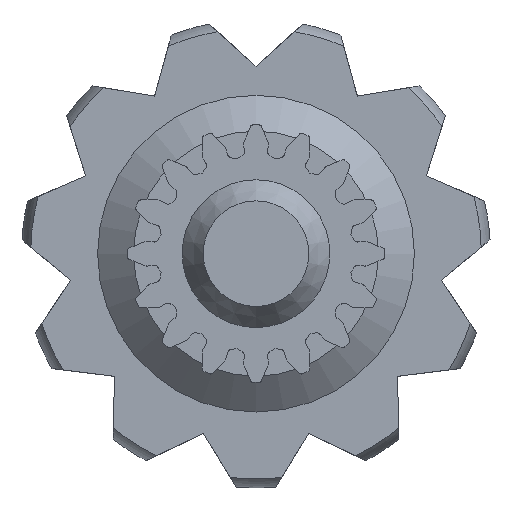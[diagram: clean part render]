
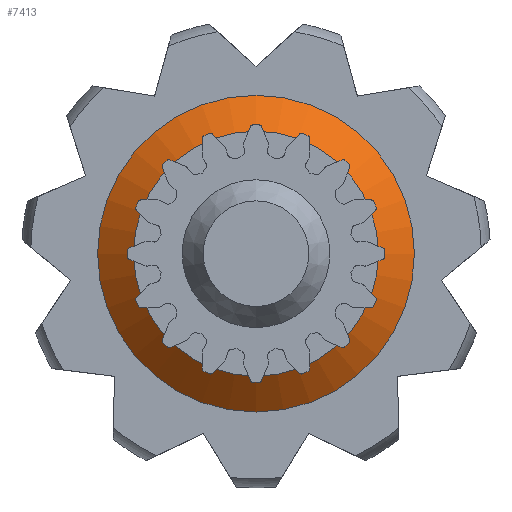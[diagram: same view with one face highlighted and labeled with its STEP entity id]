
A CAD part, left-side view. The second image highlights one B-rep face of the part: STEP entity #7413.
In plain terms, the highlighted conical face has half-angle 49.778 degrees and reference radius 4.892 mm.
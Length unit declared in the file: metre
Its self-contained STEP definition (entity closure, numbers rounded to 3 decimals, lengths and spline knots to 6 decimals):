
#44=CONICAL_SURFACE('',#7902,0.004892,0.869);
#2301=ORIENTED_EDGE('',*,*,#4408,.T.);
#2302=ORIENTED_EDGE('',*,*,#4517,.T.);
#4408=EDGE_CURVE('',#5540,#5540,#6267,.F.);
#4517=EDGE_CURVE('',#5648,#5648,#6287,.F.);
#5540=VERTEX_POINT('',#10561);
#5648=VERTEX_POINT('',#10872);
#6267=CIRCLE('',#7879,0.0075);
#6287=CIRCLE('',#7903,0.005802);
#6463=EDGE_LOOP('',(#2301));
#6464=EDGE_LOOP('',(#2302));
#6876=FACE_BOUND('',#6463,.T.);
#6877=FACE_BOUND('',#6464,.T.);
#7413=ADVANCED_FACE('',(#6876,#6877),#44,.T.);
#7879=AXIS2_PLACEMENT_3D('',#10560,#8604,#8605);
#7902=AXIS2_PLACEMENT_3D('',#10870,#8709,#8710);
#7903=AXIS2_PLACEMENT_3D('',#10871,#8711,#8712);
#8604=DIRECTION('',(1.,0.,0.));
#8605=DIRECTION('',(0.,0.,-1.));
#8709=DIRECTION('',(1.,0.,0.));
#8710=DIRECTION('',(0.,0.,-1.));
#8711=DIRECTION('',(-1.,0.,0.));
#8712=DIRECTION('',(0.,0.,1.));
#10560=CARTESIAN_POINT('',(0.065161,0.,0.013));
#10561=CARTESIAN_POINT('',(0.065161,0.,0.0055));
#10870=CARTESIAN_POINT('',(0.062955,0.,0.013));
#10871=CARTESIAN_POINT('',(0.063724,0.,0.013));
#10872=CARTESIAN_POINT('',(0.063724,0.,0.018802));
